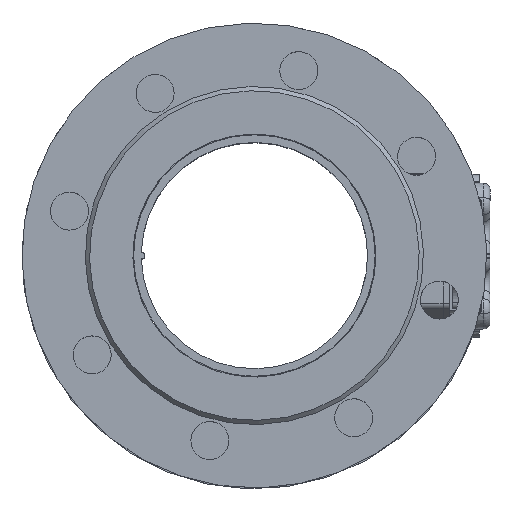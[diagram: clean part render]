
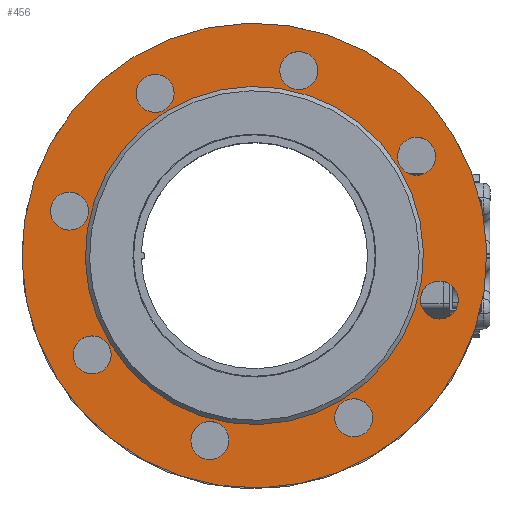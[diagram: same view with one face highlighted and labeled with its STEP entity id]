
A CAD part, top view. The second image highlights one B-rep face of the part: STEP entity #456.
In plain terms, the highlighted planar face has unit normal (0, 0, 1).
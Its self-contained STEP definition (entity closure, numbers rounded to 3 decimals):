
#456 = ADVANCED_FACE( '', ( #1058, #1059, #1060, #1061, #1062, #1063, #1064, #1065, #1066, #1067 ), #1068, .T. );
#1058 = FACE_BOUND( '', #1970, .T. );
#1059 = FACE_BOUND( '', #1971, .T. );
#1060 = FACE_BOUND( '', #1972, .T. );
#1061 = FACE_BOUND( '', #1973, .T. );
#1062 = FACE_BOUND( '', #1974, .T. );
#1063 = FACE_BOUND( '', #1975, .T. );
#1064 = FACE_BOUND( '', #1976, .T. );
#1065 = FACE_BOUND( '', #1977, .T. );
#1066 = FACE_OUTER_BOUND( '', #1978, .T. );
#1067 = FACE_BOUND( '', #1979, .T. );
#1068 = PLANE( '', #1980 );
#1970 = EDGE_LOOP( '', ( #5910 ) );
#1971 = EDGE_LOOP( '', ( #5911 ) );
#1972 = EDGE_LOOP( '', ( #5912 ) );
#1973 = EDGE_LOOP( '', ( #5913 ) );
#1974 = EDGE_LOOP( '', ( #5914 ) );
#1975 = EDGE_LOOP( '', ( #5915 ) );
#1976 = EDGE_LOOP( '', ( #5916 ) );
#1977 = EDGE_LOOP( '', ( #5917 ) );
#1978 = EDGE_LOOP( '', ( #5918 ) );
#1979 = EDGE_LOOP( '', ( #5919 ) );
#1980 = AXIS2_PLACEMENT_3D( '', #5920, #5921, #5922 );
#5910 = ORIENTED_EDGE( '', *, *, #7986, .T. );
#5911 = ORIENTED_EDGE( '', *, *, #7987, .T. );
#5912 = ORIENTED_EDGE( '', *, *, #7988, .T. );
#5913 = ORIENTED_EDGE( '', *, *, #7989, .T. );
#5914 = ORIENTED_EDGE( '', *, *, #7990, .T. );
#5915 = ORIENTED_EDGE( '', *, *, #7991, .T. );
#5916 = ORIENTED_EDGE( '', *, *, #7992, .T. );
#5917 = ORIENTED_EDGE( '', *, *, #7993, .T. );
#5918 = ORIENTED_EDGE( '', *, *, #7994, .T. );
#5919 = ORIENTED_EDGE( '', *, *, #7995, .F. );
#5920 = CARTESIAN_POINT( '', ( 110., 0., 20. ) );
#5921 = DIRECTION( '', ( 0., 0., 1. ) );
#5922 = DIRECTION( '', ( 1., 0., 0. ) );
#7986 = EDGE_CURVE( '', #8796, #8796, #8797, .T. );
#7987 = EDGE_CURVE( '', #8798, #8798, #8799, .T. );
#7988 = EDGE_CURVE( '', #8800, #8800, #8801, .T. );
#7989 = EDGE_CURVE( '', #8802, #8802, #8803, .T. );
#7990 = EDGE_CURVE( '', #8804, #8804, #8805, .T. );
#7991 = EDGE_CURVE( '', #8806, #8806, #8807, .T. );
#7992 = EDGE_CURVE( '', #8808, #8808, #8809, .T. );
#7993 = EDGE_CURVE( '', #8810, #8810, #8811, .T. );
#7994 = EDGE_CURVE( '', #8812, #8812, #8813, .T. );
#7995 = EDGE_CURVE( '', #8814, #8814, #8815, .T. );
#8796 = VERTEX_POINT( '', #9973 );
#8797 = CIRCLE( '', #9974, 9. );
#8798 = VERTEX_POINT( '', #9975 );
#8799 = CIRCLE( '', #9976, 9. );
#8800 = VERTEX_POINT( '', #9977 );
#8801 = CIRCLE( '', #9978, 9. );
#8802 = VERTEX_POINT( '', #9979 );
#8803 = CIRCLE( '', #9980, 9. );
#8804 = VERTEX_POINT( '', #9981 );
#8805 = CIRCLE( '', #9982, 9. );
#8806 = VERTEX_POINT( '', #9983 );
#8807 = CIRCLE( '', #9984, 9. );
#8808 = VERTEX_POINT( '', #9985 );
#8809 = CIRCLE( '', #9986, 9. );
#8810 = VERTEX_POINT( '', #9987 );
#8811 = CIRCLE( '', #9988, 9. );
#8812 = VERTEX_POINT( '', #9989 );
#8813 = CIRCLE( '', #9990, 110. );
#8814 = VERTEX_POINT( '', #9991 );
#8815 = CIRCLE( '', #9992, 80. );
#9973 = CARTESIAN_POINT( '', ( -90., -9., 20. ) );
#9974 = AXIS2_PLACEMENT_3D( '', #12673, #12674, #12675 );
#9975 = CARTESIAN_POINT( '', ( -63.64, -72.64, 20. ) );
#9976 = AXIS2_PLACEMENT_3D( '', #12676, #12677, #12678 );
#9977 = CARTESIAN_POINT( '', ( 0., -99., 20. ) );
#9978 = AXIS2_PLACEMENT_3D( '', #12679, #12680, #12681 );
#9979 = CARTESIAN_POINT( '', ( 63.64, -72.64, 20. ) );
#9980 = AXIS2_PLACEMENT_3D( '', #12682, #12683, #12684 );
#9981 = CARTESIAN_POINT( '', ( 90., -9., 20. ) );
#9982 = AXIS2_PLACEMENT_3D( '', #12685, #12686, #12687 );
#9983 = CARTESIAN_POINT( '', ( 63.64, 54.64, 20. ) );
#9984 = AXIS2_PLACEMENT_3D( '', #12688, #12689, #12690 );
#9985 = CARTESIAN_POINT( '', ( 0., 81., 20. ) );
#9986 = AXIS2_PLACEMENT_3D( '', #12691, #12692, #12693 );
#9987 = CARTESIAN_POINT( '', ( -63.64, 54.64, 20. ) );
#9988 = AXIS2_PLACEMENT_3D( '', #12694, #12695, #12696 );
#9989 = CARTESIAN_POINT( '', ( 110., 0., 20. ) );
#9990 = AXIS2_PLACEMENT_3D( '', #12697, #12698, #12699 );
#9991 = CARTESIAN_POINT( '', ( 80., 0., 20. ) );
#9992 = AXIS2_PLACEMENT_3D( '', #12700, #12701, #12702 );
#12673 = CARTESIAN_POINT( '', ( -90., 0., 20. ) );
#12674 = DIRECTION( '', ( 0., 0., -1. ) );
#12675 = DIRECTION( '', ( 0., -1., 0. ) );
#12676 = CARTESIAN_POINT( '', ( -63.64, -63.64, 20. ) );
#12677 = DIRECTION( '', ( 0., 0., -1. ) );
#12678 = DIRECTION( '', ( 0., -1., 0. ) );
#12679 = CARTESIAN_POINT( '', ( 0., -90., 20. ) );
#12680 = DIRECTION( '', ( 0., 0., -1. ) );
#12681 = DIRECTION( '', ( 0., -1., 0. ) );
#12682 = CARTESIAN_POINT( '', ( 63.64, -63.64, 20. ) );
#12683 = DIRECTION( '', ( 0., 0., -1. ) );
#12684 = DIRECTION( '', ( 0., -1., 0. ) );
#12685 = CARTESIAN_POINT( '', ( 90., 0., 20. ) );
#12686 = DIRECTION( '', ( 0., 0., -1. ) );
#12687 = DIRECTION( '', ( 0., -1., 0. ) );
#12688 = CARTESIAN_POINT( '', ( 63.64, 63.64, 20. ) );
#12689 = DIRECTION( '', ( 0., 0., -1. ) );
#12690 = DIRECTION( '', ( 0., -1., 0. ) );
#12691 = CARTESIAN_POINT( '', ( 0., 90., 20. ) );
#12692 = DIRECTION( '', ( 0., 0., -1. ) );
#12693 = DIRECTION( '', ( 0., -1., 0. ) );
#12694 = CARTESIAN_POINT( '', ( -63.64, 63.64, 20. ) );
#12695 = DIRECTION( '', ( 0., 0., -1. ) );
#12696 = DIRECTION( '', ( 0., -1., 0. ) );
#12697 = CARTESIAN_POINT( '', ( 0., 0., 20. ) );
#12698 = DIRECTION( '', ( 0., 0., 1. ) );
#12699 = DIRECTION( '', ( 1., 0., 0. ) );
#12700 = CARTESIAN_POINT( '', ( 0., 0., 20. ) );
#12701 = DIRECTION( '', ( 0., 0., 1. ) );
#12702 = DIRECTION( '', ( 1., 0., 0. ) );
